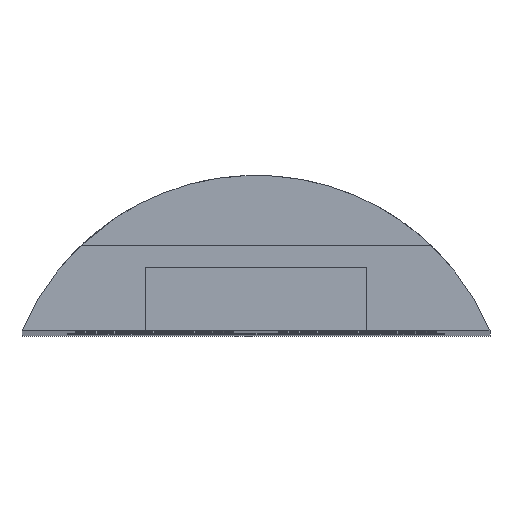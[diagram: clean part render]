
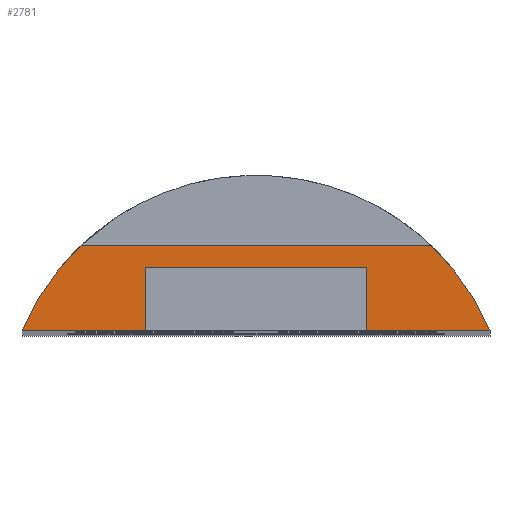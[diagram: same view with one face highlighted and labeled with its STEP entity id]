
A CAD part, top view. The second image highlights one B-rep face of the part: STEP entity #2781.
In plain terms, the highlighted planar face has unit normal (0, 0, 1).
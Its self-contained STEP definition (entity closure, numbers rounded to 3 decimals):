
#175 = EDGE_CURVE('',#176,#178,#180,.T.);
#176 = VERTEX_POINT('',#177);
#177 = CARTESIAN_POINT('',(10.375,4.349,25.));
#178 = VERTEX_POINT('',#179);
#179 = CARTESIAN_POINT('',(7.756,8.149,25.));
#180 = CIRCLE('',#181,11.25);
#181 = AXIS2_PLACEMENT_3D('',#182,#183,#184);
#182 = CARTESIAN_POINT('',(0.,0.,25.));
#183 = DIRECTION('',(0.,0.,1.));
#184 = DIRECTION('',(1.,0.,0.));
#375 = VERTEX_POINT('',#376);
#376 = CARTESIAN_POINT('',(-10.375,4.349,25.));
#382 = EDGE_CURVE('',#383,#375,#385,.T.);
#383 = VERTEX_POINT('',#384);
#384 = CARTESIAN_POINT('',(-7.756,8.149,25.));
#385 = CIRCLE('',#386,11.25);
#386 = AXIS2_PLACEMENT_3D('',#387,#388,#389);
#387 = CARTESIAN_POINT('',(0.,0.,25.));
#388 = DIRECTION('',(0.,0.,1.));
#389 = DIRECTION('',(1.,0.,0.));
#1841 = EDGE_CURVE('',#375,#1842,#1844,.T.);
#1842 = VERTEX_POINT('',#1843);
#1843 = CARTESIAN_POINT('',(-4.9,4.349,25.));
#1844 = LINE('',#1845,#1846);
#1845 = CARTESIAN_POINT('',(-10.375,4.349,25.));
#1846 = VECTOR('',#1847,1.);
#1847 = DIRECTION('',(1.,0.,0.));
#1857 = EDGE_CURVE('',#1858,#176,#1860,.T.);
#1858 = VERTEX_POINT('',#1859);
#1859 = CARTESIAN_POINT('',(4.9,4.349,25.));
#1860 = LINE('',#1861,#1862);
#1861 = CARTESIAN_POINT('',(-10.375,4.349,25.));
#1862 = VECTOR('',#1863,1.);
#1863 = DIRECTION('',(1.,0.,0.));
#2781 = ADVANCED_FACE('',(#2782),#2815,.T.);
#2782 = FACE_BOUND('',#2783,.T.);
#2783 = EDGE_LOOP('',(#2784,#2792,#2793,#2794,#2799,#2800,#2801,#2809));
#2784 = ORIENTED_EDGE('',*,*,#2785,.F.);
#2785 = EDGE_CURVE('',#1858,#2786,#2788,.T.);
#2786 = VERTEX_POINT('',#2787);
#2787 = CARTESIAN_POINT('',(4.9,7.149,25.));
#2788 = LINE('',#2789,#2790);
#2789 = CARTESIAN_POINT('',(4.9,4.349,25.));
#2790 = VECTOR('',#2791,1.);
#2791 = DIRECTION('',(0.,1.,0.));
#2792 = ORIENTED_EDGE('',*,*,#1857,.T.);
#2793 = ORIENTED_EDGE('',*,*,#175,.T.);
#2794 = ORIENTED_EDGE('',*,*,#2795,.T.);
#2795 = EDGE_CURVE('',#178,#383,#2796,.T.);
#2796 = B_SPLINE_CURVE_WITH_KNOTS('',1,(#2797,#2798),.UNSPECIFIED.,.F.,
  .F.,(2,2),(0.,1.),.PIECEWISE_BEZIER_KNOTS.);
#2797 = CARTESIAN_POINT('',(10.375,8.149,25.));
#2798 = CARTESIAN_POINT('',(-10.375,8.149,25.));
#2799 = ORIENTED_EDGE('',*,*,#382,.T.);
#2800 = ORIENTED_EDGE('',*,*,#1841,.T.);
#2801 = ORIENTED_EDGE('',*,*,#2802,.F.);
#2802 = EDGE_CURVE('',#2803,#1842,#2805,.T.);
#2803 = VERTEX_POINT('',#2804);
#2804 = CARTESIAN_POINT('',(-4.9,7.149,25.));
#2805 = LINE('',#2806,#2807);
#2806 = CARTESIAN_POINT('',(-4.9,7.149,25.));
#2807 = VECTOR('',#2808,1.);
#2808 = DIRECTION('',(0.,-1.,0.));
#2809 = ORIENTED_EDGE('',*,*,#2810,.F.);
#2810 = EDGE_CURVE('',#2786,#2803,#2811,.T.);
#2811 = LINE('',#2812,#2813);
#2812 = CARTESIAN_POINT('',(4.9,7.149,25.));
#2813 = VECTOR('',#2814,1.);
#2814 = DIRECTION('',(-1.,0.,0.));
#2815 = PLANE('',#2816);
#2816 = AXIS2_PLACEMENT_3D('',#2817,#2818,#2819);
#2817 = CARTESIAN_POINT('',(0.,6.582,25.));
#2818 = DIRECTION('',(0.,0.,1.));
#2819 = DIRECTION('',(1.,0.,0.));
